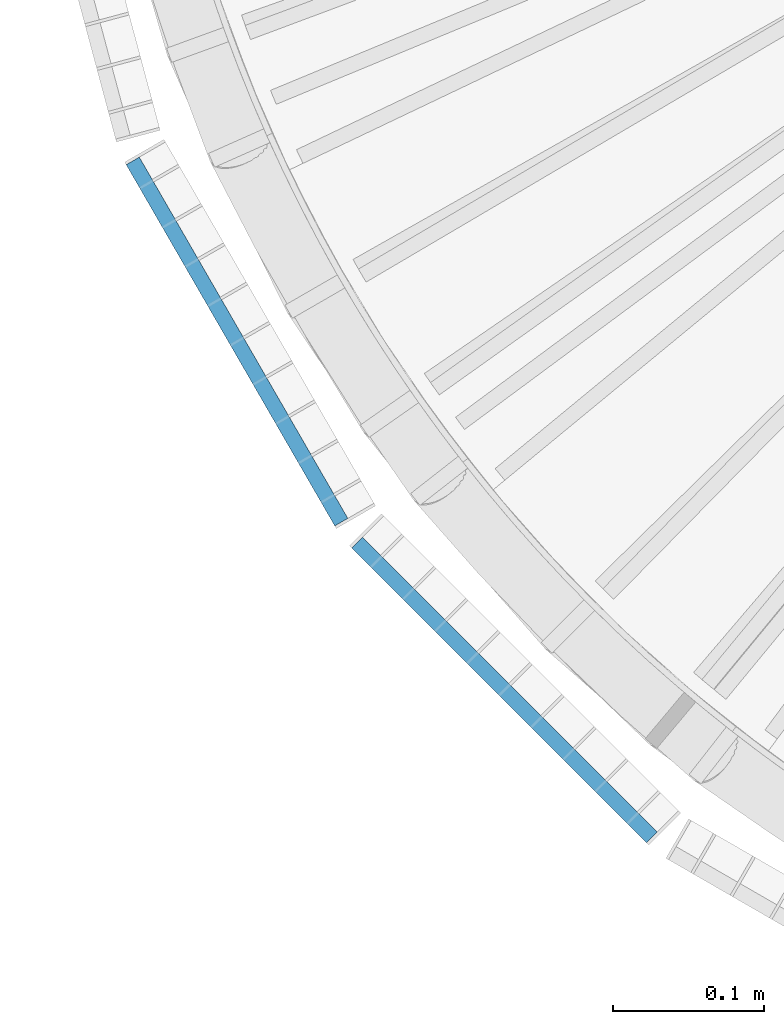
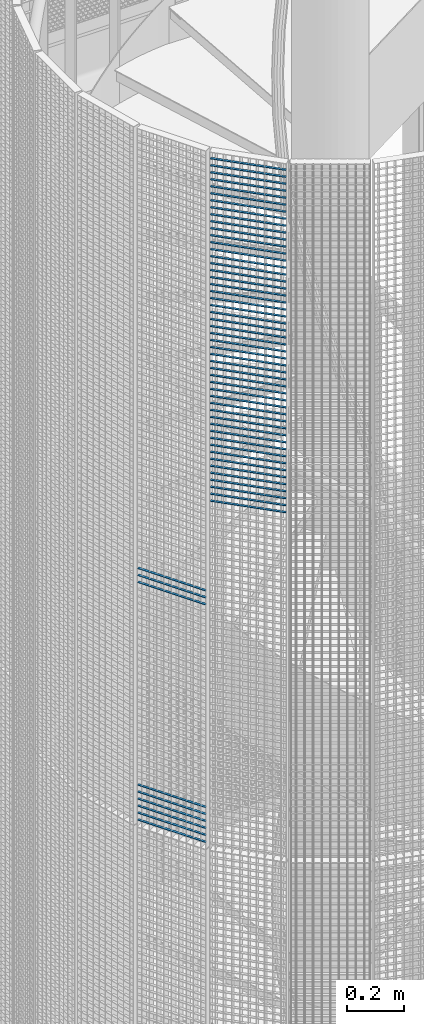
# One storey, part 340 of 1183: 59 beams, 2 elements without a shape of their own.
"""IFC2X3 building model written with IfcOpenShell, lengths in millimetres."""

from ifc_helpers import new_model, si_unit, frame, origin_with_axes, origin_2d_with_axis, place, context, subcontext, project, spatial, rectangle, extrude, material, type_object, element, aggregate, save


model = new_model("IFC2X3")

# Units and contexts
model_context = context("Model", 3, precision=1e-05, world=origin_with_axes())
body_context = subcontext(model_context, "Body", "Model", "MODEL_VIEW")
ifc_project = project(units=[si_unit("LENGTHUNIT", "METRE", prefix="MILLI"), si_unit("AREAUNIT", "SQUARE_METRE"), si_unit("VOLUMEUNIT", "CUBIC_METRE"), si_unit("MASSUNIT", "GRAM", prefix="KILO"), si_unit("TIMEUNIT", "SECOND"), si_unit("PLANEANGLEUNIT", "RADIAN"), si_unit("SOLIDANGLEUNIT", "STERADIAN"), si_unit("THERMODYNAMICTEMPERATUREUNIT", "DEGREE_CELSIUS"), si_unit("LUMINOUSINTENSITYUNIT", "LUMEN")], contexts=[model_context])

# Site, building, storey
site_placement = place(None, origin_with_axes())
site = spatial("IfcSite", under=ifc_project, at=site_placement, Name="Undefined", CompositionType="ELEMENT")
building_placement = place(site_placement, origin_with_axes())
building = spatial("IfcBuilding", under=site, at=building_placement, Name="Undefined", CompositionType="ELEMENT")
storey_placement = place(building_placement, origin_with_axes())
storey = spatial("IfcBuildingStorey", under=building, at=storey_placement, Name="Undefined", CompositionType="ELEMENT", Elevation=0.0)

# Assembly, beams
assembly_1_placement = place(storey_placement, origin_with_axes())
assembly_1 = element("IfcElementAssembly", 1, at=assembly_1_placement, inside=storey, Name="BORDURE", AssemblyPlace="NOTDEFINED", PredefinedType="NOTDEFINED")
ifc_material = material(Name="STEEL/S235JR")
beam_type = type_object("IfcBeamType", Name="PL2*10", PredefinedType="NOTDEFINED")
beam_1_placement = place(assembly_1_placement, frame((20704.6960350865, -676.24804453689, 15180.0), z_axis=(-0.866025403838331, -0.499999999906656, 0.0), x_axis=(-0.49999999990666, 0.866025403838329, 0.0)))
beam_1 = element("IfcBeam", 2, at=beam_1_placement, type_object=beam_type, material=ifc_material, Name="ENTRETOISE", context=body_context, shape_type="SweptSolid", body=[
    extrude(rectangle(XDim=2.0, YDim=10.0, at=origin_2d_with_axis()), frame((275.999999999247, 9.09494701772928e-13, 1.53210777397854e-14), z_axis=(-1.0, 0.0, 0.0), x_axis=(0.0, -1.0, 0.0)), (0.0, 0.0, 1.0), 276.0),
])
beam_2_placement = place(assembly_1_placement, frame((20704.6960350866, -676.248044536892, 16050.0), z_axis=(-0.866025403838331, -0.499999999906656, 0.0), x_axis=(-0.49999999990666, 0.866025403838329, 0.0)))
beam_2 = element("IfcBeam", 3, at=beam_2_placement, type_object=beam_type, material=ifc_material, Name="ENTRETOISE", context=body_context, shape_type="SweptSolid", body=[
    extrude(rectangle(XDim=2.0, YDim=10.0, at=origin_2d_with_axis()), frame((275.999999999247, 9.09494701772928e-13, 1.53210777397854e-14), z_axis=(-1.0, 0.0, 0.0), x_axis=(0.0, -1.0, 0.0)), (0.0, 0.0, 1.0), 276.0),
])
beam_3_placement = place(assembly_1_placement, frame((20704.6960350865, -676.24804453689, 15150.0), z_axis=(-0.866025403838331, -0.499999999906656, 0.0), x_axis=(-0.49999999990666, 0.866025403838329, 0.0)))
beam_3 = element("IfcBeam", 4, at=beam_3_placement, type_object=beam_type, material=ifc_material, Name="ENTRETOISE", context=body_context, shape_type="SweptSolid", body=[
    extrude(rectangle(XDim=2.0, YDim=10.0, at=origin_2d_with_axis()), frame((275.999999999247, 9.09494701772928e-13, 1.53210777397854e-14), z_axis=(-1.0, 0.0, 0.0), x_axis=(0.0, -1.0, 0.0)), (0.0, 0.0, 1.0), 276.0),
])
beam_4_placement = place(assembly_1_placement, frame((20704.6960350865, -676.24804453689, 15120.0), z_axis=(-0.866025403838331, -0.499999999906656, 0.0), x_axis=(-0.49999999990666, 0.866025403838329, 0.0)))
beam_4 = element("IfcBeam", 5, at=beam_4_placement, type_object=beam_type, material=ifc_material, Name="ENTRETOISE", context=body_context, shape_type="SweptSolid", body=[
    extrude(rectangle(XDim=2.0, YDim=10.0, at=origin_2d_with_axis()), frame((275.999999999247, 9.09494701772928e-13, 1.53210777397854e-14), z_axis=(-1.0, 0.0, 0.0), x_axis=(0.0, -1.0, 0.0)), (0.0, 0.0, 1.0), 276.0),
])
beam_5_placement = place(assembly_1_placement, frame((20704.6960350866, -676.248044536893, 16080.0), z_axis=(-0.866025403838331, -0.499999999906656, 0.0), x_axis=(-0.49999999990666, 0.866025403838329, 0.0)))
beam_5 = element("IfcBeam", 6, at=beam_5_placement, type_object=beam_type, material=ifc_material, Name="ENTRETOISE", context=body_context, shape_type="SweptSolid", body=[
    extrude(rectangle(XDim=2.0, YDim=10.0, at=origin_2d_with_axis()), frame((275.999999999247, 9.09494701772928e-13, 1.53210777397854e-14), z_axis=(-1.0, 0.0, 0.0), x_axis=(0.0, -1.0, 0.0)), (0.0, 0.0, 1.0), 276.0),
])
beam_6_placement = place(assembly_1_placement, frame((20704.6960350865, -676.248044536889, 15090.0), z_axis=(-0.866025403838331, -0.499999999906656, 0.0), x_axis=(-0.49999999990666, 0.866025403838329, 0.0)))
beam_6 = element("IfcBeam", 7, at=beam_6_placement, type_object=beam_type, material=ifc_material, Name="ENTRETOISE", context=body_context, shape_type="SweptSolid", body=[
    extrude(rectangle(XDim=2.0, YDim=10.0, at=origin_2d_with_axis()), frame((275.999999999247, 9.09494701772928e-13, 1.53210777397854e-14), z_axis=(-1.0, 0.0, 0.0), x_axis=(0.0, -1.0, 0.0)), (0.0, 0.0, 1.0), 276.0),
])
beam_7_placement = place(assembly_1_placement, frame((20704.6960350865, -676.248044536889, 15060.0), z_axis=(-0.866025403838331, -0.499999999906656, 0.0), x_axis=(-0.49999999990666, 0.866025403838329, 0.0)))
beam_7 = element("IfcBeam", 8, at=beam_7_placement, type_object=beam_type, material=ifc_material, Name="ENTRETOISE", context=body_context, shape_type="SweptSolid", body=[
    extrude(rectangle(XDim=2.0, YDim=10.0, at=origin_2d_with_axis()), frame((275.999999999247, 9.09494701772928e-13, 1.53210777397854e-14), z_axis=(-1.0, 0.0, 0.0), x_axis=(0.0, -1.0, 0.0)), (0.0, 0.0, 1.0), 276.0),
])
beam_8_placement = place(assembly_1_placement, frame((20704.6960350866, -676.248044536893, 16110.0), z_axis=(-0.866025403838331, -0.499999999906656, 0.0), x_axis=(-0.49999999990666, 0.866025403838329, 0.0)))
beam_8 = element("IfcBeam", 9, at=beam_8_placement, type_object=beam_type, material=ifc_material, Name="ENTRETOISE", context=body_context, shape_type="SweptSolid", body=[
    extrude(rectangle(XDim=2.0, YDim=10.0, at=origin_2d_with_axis()), frame((275.999999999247, 9.09494701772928e-13, 1.53210777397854e-14), z_axis=(-1.0, 0.0, 0.0), x_axis=(0.0, -1.0, 0.0)), (0.0, 0.0, 1.0), 276.0),
])
beam_9_placement = place(assembly_1_placement, frame((20704.6960350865, -676.248044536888, 15030.0), z_axis=(-0.866025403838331, -0.499999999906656, 0.0), x_axis=(-0.49999999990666, 0.866025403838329, 0.0)))
beam_9 = element("IfcBeam", 10, at=beam_9_placement, type_object=beam_type, material=ifc_material, Name="ENTRETOISE", context=body_context, shape_type="SweptSolid", body=[
    extrude(rectangle(XDim=2.0, YDim=10.0, at=origin_2d_with_axis()), frame((275.999999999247, 9.09494701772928e-13, 1.53210777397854e-14), z_axis=(-1.0, 0.0, 0.0), x_axis=(0.0, -1.0, 0.0)), (0.0, 0.0, 1.0), 276.0),
])
aggregate(assembly_1, [beam_1, beam_2, beam_3, beam_4, beam_5, beam_6, beam_7, beam_8, beam_9])

assembly_2_placement = place(storey_placement, origin_with_axes())
assembly_2 = element("IfcElementAssembly", 11, at=assembly_2_placement, inside=storey, Name="BORDURE", AssemblyPlace="NOTDEFINED", PredefinedType="NOTDEFINED")
beam_10_placement = place(assembly_2_placement, frame((20910.2286510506, -884.927168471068, 17970.0), z_axis=(-0.70710678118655, -0.707106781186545, 0.0), x_axis=(-0.707106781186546, 0.707106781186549, 0.0)))
beam_10 = element("IfcBeam", 12, at=beam_10_placement, type_object=beam_type, material=ifc_material, Name="ENTRETOISE", context=body_context, shape_type="SweptSolid", body=[
    extrude(rectangle(XDim=2.0, YDim=10.0, at=origin_2d_with_axis()), frame((275.999999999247, 9.09494701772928e-13, 1.53210777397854e-14), z_axis=(-1.0, 0.0, 0.0), x_axis=(0.0, -1.0, 0.0)), (0.0, 0.0, 1.0), 276.0),
])
beam_11_placement = place(assembly_2_placement, frame((20910.2286510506, -884.927168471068, 17940.0), z_axis=(-0.70710678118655, -0.707106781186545, 0.0), x_axis=(-0.707106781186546, 0.707106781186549, 0.0)))
beam_11 = element("IfcBeam", 13, at=beam_11_placement, type_object=beam_type, material=ifc_material, Name="ENTRETOISE", context=body_context, shape_type="SweptSolid", body=[
    extrude(rectangle(XDim=2.0, YDim=10.0, at=origin_2d_with_axis()), frame((275.999999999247, 9.09494701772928e-13, 1.53210777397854e-14), z_axis=(-1.0, 0.0, 0.0), x_axis=(0.0, -1.0, 0.0)), (0.0, 0.0, 1.0), 276.0),
])
beam_12_placement = place(assembly_2_placement, frame((20910.2286510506, -884.927168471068, 17910.0), z_axis=(-0.70710678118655, -0.707106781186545, 0.0), x_axis=(-0.707106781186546, 0.707106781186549, 0.0)))
beam_12 = element("IfcBeam", 14, at=beam_12_placement, type_object=beam_type, material=ifc_material, Name="ENTRETOISE", context=body_context, shape_type="SweptSolid", body=[
    extrude(rectangle(XDim=2.0, YDim=10.0, at=origin_2d_with_axis()), frame((275.999999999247, 9.09494701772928e-13, 1.53210777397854e-14), z_axis=(-1.0, 0.0, 0.0), x_axis=(0.0, -1.0, 0.0)), (0.0, 0.0, 1.0), 276.0),
])
beam_13_placement = place(assembly_2_placement, frame((20910.2286510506, -884.927168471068, 17880.0), z_axis=(-0.70710678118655, -0.707106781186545, 0.0), x_axis=(-0.707106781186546, 0.707106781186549, 0.0)))
beam_13 = element("IfcBeam", 15, at=beam_13_placement, type_object=beam_type, material=ifc_material, Name="ENTRETOISE", context=body_context, shape_type="SweptSolid", body=[
    extrude(rectangle(XDim=2.0, YDim=10.0, at=origin_2d_with_axis()), frame((275.999999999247, 9.09494701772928e-13, 1.53210777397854e-14), z_axis=(-1.0, 0.0, 0.0), x_axis=(0.0, -1.0, 0.0)), (0.0, 0.0, 1.0), 276.0),
])
beam_14_placement = place(assembly_2_placement, frame((20910.2286510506, -884.927168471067, 17850.0), z_axis=(-0.70710678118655, -0.707106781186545, 0.0), x_axis=(-0.707106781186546, 0.707106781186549, 0.0)))
beam_14 = element("IfcBeam", 16, at=beam_14_placement, type_object=beam_type, material=ifc_material, Name="ENTRETOISE", context=body_context, shape_type="SweptSolid", body=[
    extrude(rectangle(XDim=2.0, YDim=10.0, at=origin_2d_with_axis()), frame((275.999999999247, 9.09494701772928e-13, 1.53210777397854e-14), z_axis=(-1.0, 0.0, 0.0), x_axis=(0.0, -1.0, 0.0)), (0.0, 0.0, 1.0), 276.0),
])
beam_15_placement = place(assembly_2_placement, frame((20910.2286510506, -884.927168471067, 17820.0), z_axis=(-0.70710678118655, -0.707106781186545, 0.0), x_axis=(-0.707106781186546, 0.707106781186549, 0.0)))
beam_15 = element("IfcBeam", 17, at=beam_15_placement, type_object=beam_type, material=ifc_material, Name="ENTRETOISE", context=body_context, shape_type="SweptSolid", body=[
    extrude(rectangle(XDim=2.0, YDim=10.0, at=origin_2d_with_axis()), frame((275.999999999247, 9.09494701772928e-13, 1.53210777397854e-14), z_axis=(-1.0, 0.0, 0.0), x_axis=(0.0, -1.0, 0.0)), (0.0, 0.0, 1.0), 276.0),
])
beam_16_placement = place(assembly_2_placement, frame((20910.2286510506, -884.927168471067, 17790.0), z_axis=(-0.70710678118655, -0.707106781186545, 0.0), x_axis=(-0.707106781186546, 0.707106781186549, 0.0)))
beam_16 = element("IfcBeam", 18, at=beam_16_placement, type_object=beam_type, material=ifc_material, Name="ENTRETOISE", context=body_context, shape_type="SweptSolid", body=[
    extrude(rectangle(XDim=2.0, YDim=10.0, at=origin_2d_with_axis()), frame((275.999999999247, 9.09494701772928e-13, 1.53210777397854e-14), z_axis=(-1.0, 0.0, 0.0), x_axis=(0.0, -1.0, 0.0)), (0.0, 0.0, 1.0), 276.0),
])
beam_17_placement = place(assembly_2_placement, frame((20910.2286510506, -884.927168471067, 17760.0), z_axis=(-0.70710678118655, -0.707106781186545, 0.0), x_axis=(-0.707106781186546, 0.707106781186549, 0.0)))
beam_17 = element("IfcBeam", 19, at=beam_17_placement, type_object=beam_type, material=ifc_material, Name="ENTRETOISE", context=body_context, shape_type="SweptSolid", body=[
    extrude(rectangle(XDim=2.0, YDim=10.0, at=origin_2d_with_axis()), frame((275.999999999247, 9.09494701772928e-13, 1.53210777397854e-14), z_axis=(-1.0, 0.0, 0.0), x_axis=(0.0, -1.0, 0.0)), (0.0, 0.0, 1.0), 276.0),
])
beam_18_placement = place(assembly_2_placement, frame((20910.2286510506, -884.927168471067, 17730.0), z_axis=(-0.70710678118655, -0.707106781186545, 0.0), x_axis=(-0.707106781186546, 0.707106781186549, 0.0)))
beam_18 = element("IfcBeam", 20, at=beam_18_placement, type_object=beam_type, material=ifc_material, Name="ENTRETOISE", context=body_context, shape_type="SweptSolid", body=[
    extrude(rectangle(XDim=2.0, YDim=10.0, at=origin_2d_with_axis()), frame((275.999999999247, 9.09494701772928e-13, 1.53210777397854e-14), z_axis=(-1.0, 0.0, 0.0), x_axis=(0.0, -1.0, 0.0)), (0.0, 0.0, 1.0), 276.0),
])
beam_19_placement = place(assembly_2_placement, frame((20910.2286510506, -884.927168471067, 17700.0), z_axis=(-0.70710678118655, -0.707106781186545, 0.0), x_axis=(-0.707106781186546, 0.707106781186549, 0.0)))
beam_19 = element("IfcBeam", 21, at=beam_19_placement, type_object=beam_type, material=ifc_material, Name="ENTRETOISE", context=body_context, shape_type="SweptSolid", body=[
    extrude(rectangle(XDim=2.0, YDim=10.0, at=origin_2d_with_axis()), frame((275.999999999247, 9.09494701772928e-13, 1.53210777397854e-14), z_axis=(-1.0, 0.0, 0.0), x_axis=(0.0, -1.0, 0.0)), (0.0, 0.0, 1.0), 276.0),
])
beam_20_placement = place(assembly_2_placement, frame((20910.2286510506, -884.927168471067, 17670.0), z_axis=(-0.70710678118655, -0.707106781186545, 0.0), x_axis=(-0.707106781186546, 0.707106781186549, 0.0)))
beam_20 = element("IfcBeam", 22, at=beam_20_placement, type_object=beam_type, material=ifc_material, Name="ENTRETOISE", context=body_context, shape_type="SweptSolid", body=[
    extrude(rectangle(XDim=2.0, YDim=10.0, at=origin_2d_with_axis()), frame((275.999999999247, 9.09494701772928e-13, 1.53210777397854e-14), z_axis=(-1.0, 0.0, 0.0), x_axis=(0.0, -1.0, 0.0)), (0.0, 0.0, 1.0), 276.0),
])
beam_21_placement = place(assembly_2_placement, frame((20910.2286510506, -884.927168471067, 17640.0), z_axis=(-0.70710678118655, -0.707106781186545, 0.0), x_axis=(-0.707106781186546, 0.707106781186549, 0.0)))
beam_21 = element("IfcBeam", 23, at=beam_21_placement, type_object=beam_type, material=ifc_material, Name="ENTRETOISE", context=body_context, shape_type="SweptSolid", body=[
    extrude(rectangle(XDim=2.0, YDim=10.0, at=origin_2d_with_axis()), frame((275.999999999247, 9.09494701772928e-13, 1.53210777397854e-14), z_axis=(-1.0, 0.0, 0.0), x_axis=(0.0, -1.0, 0.0)), (0.0, 0.0, 1.0), 276.0),
])
beam_22_placement = place(assembly_2_placement, frame((20910.2286510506, -884.927168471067, 17610.0), z_axis=(-0.70710678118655, -0.707106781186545, 0.0), x_axis=(-0.707106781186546, 0.707106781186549, 0.0)))
beam_22 = element("IfcBeam", 24, at=beam_22_placement, type_object=beam_type, material=ifc_material, Name="ENTRETOISE", context=body_context, shape_type="SweptSolid", body=[
    extrude(rectangle(XDim=2.0, YDim=10.0, at=origin_2d_with_axis()), frame((275.999999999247, 9.09494701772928e-13, 1.53210777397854e-14), z_axis=(-1.0, 0.0, 0.0), x_axis=(0.0, -1.0, 0.0)), (0.0, 0.0, 1.0), 276.0),
])
beam_23_placement = place(assembly_2_placement, frame((20910.2286510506, -884.927168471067, 17580.0), z_axis=(-0.70710678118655, -0.707106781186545, 0.0), x_axis=(-0.707106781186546, 0.707106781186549, 0.0)))
beam_23 = element("IfcBeam", 25, at=beam_23_placement, type_object=beam_type, material=ifc_material, Name="ENTRETOISE", context=body_context, shape_type="SweptSolid", body=[
    extrude(rectangle(XDim=2.0, YDim=10.0, at=origin_2d_with_axis()), frame((275.999999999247, 9.09494701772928e-13, 1.53210777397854e-14), z_axis=(-1.0, 0.0, 0.0), x_axis=(0.0, -1.0, 0.0)), (0.0, 0.0, 1.0), 276.0),
])
beam_24_placement = place(assembly_2_placement, frame((20910.2286510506, -884.927168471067, 17550.0), z_axis=(-0.70710678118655, -0.707106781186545, 0.0), x_axis=(-0.707106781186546, 0.707106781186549, 0.0)))
beam_24 = element("IfcBeam", 26, at=beam_24_placement, type_object=beam_type, material=ifc_material, Name="ENTRETOISE", context=body_context, shape_type="SweptSolid", body=[
    extrude(rectangle(XDim=2.0, YDim=10.0, at=origin_2d_with_axis()), frame((275.999999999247, 9.09494701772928e-13, 1.53210777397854e-14), z_axis=(-1.0, 0.0, 0.0), x_axis=(0.0, -1.0, 0.0)), (0.0, 0.0, 1.0), 276.0),
])
beam_25_placement = place(assembly_2_placement, frame((20910.2286510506, -884.927168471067, 17520.0), z_axis=(-0.70710678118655, -0.707106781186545, 0.0), x_axis=(-0.707106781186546, 0.707106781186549, 0.0)))
beam_25 = element("IfcBeam", 27, at=beam_25_placement, type_object=beam_type, material=ifc_material, Name="ENTRETOISE", context=body_context, shape_type="SweptSolid", body=[
    extrude(rectangle(XDim=2.0, YDim=10.0, at=origin_2d_with_axis()), frame((275.999999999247, 9.09494701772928e-13, 1.53210777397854e-14), z_axis=(-1.0, 0.0, 0.0), x_axis=(0.0, -1.0, 0.0)), (0.0, 0.0, 1.0), 276.0),
])
beam_26_placement = place(assembly_2_placement, frame((20910.2286510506, -884.927168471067, 17490.0), z_axis=(-0.70710678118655, -0.707106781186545, 0.0), x_axis=(-0.707106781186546, 0.707106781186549, 0.0)))
beam_26 = element("IfcBeam", 28, at=beam_26_placement, type_object=beam_type, material=ifc_material, Name="ENTRETOISE", context=body_context, shape_type="SweptSolid", body=[
    extrude(rectangle(XDim=2.0, YDim=10.0, at=origin_2d_with_axis()), frame((275.999999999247, 9.09494701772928e-13, 1.53210777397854e-14), z_axis=(-1.0, 0.0, 0.0), x_axis=(0.0, -1.0, 0.0)), (0.0, 0.0, 1.0), 276.0),
])
beam_27_placement = place(assembly_2_placement, frame((20910.2286510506, -884.927168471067, 17460.0), z_axis=(-0.70710678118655, -0.707106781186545, 0.0), x_axis=(-0.707106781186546, 0.707106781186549, 0.0)))
beam_27 = element("IfcBeam", 29, at=beam_27_placement, type_object=beam_type, material=ifc_material, Name="ENTRETOISE", context=body_context, shape_type="SweptSolid", body=[
    extrude(rectangle(XDim=2.0, YDim=10.0, at=origin_2d_with_axis()), frame((275.999999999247, 9.09494701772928e-13, 1.53210777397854e-14), z_axis=(-1.0, 0.0, 0.0), x_axis=(0.0, -1.0, 0.0)), (0.0, 0.0, 1.0), 276.0),
])
beam_28_placement = place(assembly_2_placement, frame((20910.2286510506, -884.927168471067, 17430.0), z_axis=(-0.70710678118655, -0.707106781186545, 0.0), x_axis=(-0.707106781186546, 0.707106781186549, 0.0)))
beam_28 = element("IfcBeam", 30, at=beam_28_placement, type_object=beam_type, material=ifc_material, Name="ENTRETOISE", context=body_context, shape_type="SweptSolid", body=[
    extrude(rectangle(XDim=2.0, YDim=10.0, at=origin_2d_with_axis()), frame((275.999999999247, 9.09494701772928e-13, 1.53210777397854e-14), z_axis=(-1.0, 0.0, 0.0), x_axis=(0.0, -1.0, 0.0)), (0.0, 0.0, 1.0), 276.0),
])
beam_29_placement = place(assembly_2_placement, frame((20910.2286510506, -884.927168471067, 17400.0), z_axis=(-0.70710678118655, -0.707106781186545, 0.0), x_axis=(-0.707106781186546, 0.707106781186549, 0.0)))
beam_29 = element("IfcBeam", 31, at=beam_29_placement, type_object=beam_type, material=ifc_material, Name="ENTRETOISE", context=body_context, shape_type="SweptSolid", body=[
    extrude(rectangle(XDim=2.0, YDim=10.0, at=origin_2d_with_axis()), frame((275.999999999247, 9.09494701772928e-13, 1.53210777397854e-14), z_axis=(-1.0, 0.0, 0.0), x_axis=(0.0, -1.0, 0.0)), (0.0, 0.0, 1.0), 276.0),
])
beam_30_placement = place(assembly_2_placement, frame((20910.2286510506, -884.927168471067, 17370.0), z_axis=(-0.70710678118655, -0.707106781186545, 0.0), x_axis=(-0.707106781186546, 0.707106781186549, 0.0)))
beam_30 = element("IfcBeam", 32, at=beam_30_placement, type_object=beam_type, material=ifc_material, Name="ENTRETOISE", context=body_context, shape_type="SweptSolid", body=[
    extrude(rectangle(XDim=2.0, YDim=10.0, at=origin_2d_with_axis()), frame((275.999999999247, 9.09494701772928e-13, 1.53210777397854e-14), z_axis=(-1.0, 0.0, 0.0), x_axis=(0.0, -1.0, 0.0)), (0.0, 0.0, 1.0), 276.0),
])
beam_31_placement = place(assembly_2_placement, frame((20910.2286510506, -884.927168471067, 17340.0), z_axis=(-0.70710678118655, -0.707106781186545, 0.0), x_axis=(-0.707106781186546, 0.707106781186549, 0.0)))
beam_31 = element("IfcBeam", 33, at=beam_31_placement, type_object=beam_type, material=ifc_material, Name="ENTRETOISE", context=body_context, shape_type="SweptSolid", body=[
    extrude(rectangle(XDim=2.0, YDim=10.0, at=origin_2d_with_axis()), frame((275.999999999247, 9.09494701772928e-13, 1.53210777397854e-14), z_axis=(-1.0, 0.0, 0.0), x_axis=(0.0, -1.0, 0.0)), (0.0, 0.0, 1.0), 276.0),
])
beam_32_placement = place(assembly_2_placement, frame((20910.2286510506, -884.927168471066, 17310.0), z_axis=(-0.70710678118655, -0.707106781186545, 0.0), x_axis=(-0.707106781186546, 0.707106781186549, 0.0)))
beam_32 = element("IfcBeam", 34, at=beam_32_placement, type_object=beam_type, material=ifc_material, Name="ENTRETOISE", context=body_context, shape_type="SweptSolid", body=[
    extrude(rectangle(XDim=2.0, YDim=10.0, at=origin_2d_with_axis()), frame((275.999999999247, 9.09494701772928e-13, 1.53210777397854e-14), z_axis=(-1.0, 0.0, 0.0), x_axis=(0.0, -1.0, 0.0)), (0.0, 0.0, 1.0), 276.0),
])
beam_33_placement = place(assembly_2_placement, frame((20910.2286510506, -884.927168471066, 17280.0), z_axis=(-0.70710678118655, -0.707106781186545, 0.0), x_axis=(-0.707106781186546, 0.707106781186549, 0.0)))
beam_33 = element("IfcBeam", 35, at=beam_33_placement, type_object=beam_type, material=ifc_material, Name="ENTRETOISE", context=body_context, shape_type="SweptSolid", body=[
    extrude(rectangle(XDim=2.0, YDim=10.0, at=origin_2d_with_axis()), frame((275.999999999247, 9.09494701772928e-13, 1.53210777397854e-14), z_axis=(-1.0, 0.0, 0.0), x_axis=(0.0, -1.0, 0.0)), (0.0, 0.0, 1.0), 276.0),
])
beam_34_placement = place(assembly_2_placement, frame((20910.2286510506, -884.927168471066, 17250.0), z_axis=(-0.70710678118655, -0.707106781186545, 0.0), x_axis=(-0.707106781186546, 0.707106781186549, 0.0)))
beam_34 = element("IfcBeam", 36, at=beam_34_placement, type_object=beam_type, material=ifc_material, Name="ENTRETOISE", context=body_context, shape_type="SweptSolid", body=[
    extrude(rectangle(XDim=2.0, YDim=10.0, at=origin_2d_with_axis()), frame((275.999999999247, 9.09494701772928e-13, 1.53210777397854e-14), z_axis=(-1.0, 0.0, 0.0), x_axis=(0.0, -1.0, 0.0)), (0.0, 0.0, 1.0), 276.0),
])
beam_35_placement = place(assembly_2_placement, frame((20910.2286510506, -884.927168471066, 17220.0), z_axis=(-0.70710678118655, -0.707106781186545, 0.0), x_axis=(-0.707106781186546, 0.707106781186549, 0.0)))
beam_35 = element("IfcBeam", 37, at=beam_35_placement, type_object=beam_type, material=ifc_material, Name="ENTRETOISE", context=body_context, shape_type="SweptSolid", body=[
    extrude(rectangle(XDim=2.0, YDim=10.0, at=origin_2d_with_axis()), frame((275.999999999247, 9.09494701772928e-13, 1.53210777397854e-14), z_axis=(-1.0, 0.0, 0.0), x_axis=(0.0, -1.0, 0.0)), (0.0, 0.0, 1.0), 276.0),
])
beam_36_placement = place(assembly_2_placement, frame((20910.2286510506, -884.927168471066, 17190.0), z_axis=(-0.70710678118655, -0.707106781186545, 0.0), x_axis=(-0.707106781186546, 0.707106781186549, 0.0)))
beam_36 = element("IfcBeam", 38, at=beam_36_placement, type_object=beam_type, material=ifc_material, Name="ENTRETOISE", context=body_context, shape_type="SweptSolid", body=[
    extrude(rectangle(XDim=2.0, YDim=10.0, at=origin_2d_with_axis()), frame((275.999999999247, 9.09494701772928e-13, 1.53210777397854e-14), z_axis=(-1.0, 0.0, 0.0), x_axis=(0.0, -1.0, 0.0)), (0.0, 0.0, 1.0), 276.0),
])
beam_37_placement = place(assembly_2_placement, frame((20910.2286510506, -884.927168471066, 17160.0), z_axis=(-0.70710678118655, -0.707106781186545, 0.0), x_axis=(-0.707106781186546, 0.707106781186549, 0.0)))
beam_37 = element("IfcBeam", 39, at=beam_37_placement, type_object=beam_type, material=ifc_material, Name="ENTRETOISE", context=body_context, shape_type="SweptSolid", body=[
    extrude(rectangle(XDim=2.0, YDim=10.0, at=origin_2d_with_axis()), frame((275.999999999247, 9.09494701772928e-13, 1.53210777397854e-14), z_axis=(-1.0, 0.0, 0.0), x_axis=(0.0, -1.0, 0.0)), (0.0, 0.0, 1.0), 276.0),
])
beam_38_placement = place(assembly_2_placement, frame((20910.2286510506, -884.927168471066, 17130.0), z_axis=(-0.70710678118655, -0.707106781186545, 0.0), x_axis=(-0.707106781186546, 0.707106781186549, 0.0)))
beam_38 = element("IfcBeam", 40, at=beam_38_placement, type_object=beam_type, material=ifc_material, Name="ENTRETOISE", context=body_context, shape_type="SweptSolid", body=[
    extrude(rectangle(XDim=2.0, YDim=10.0, at=origin_2d_with_axis()), frame((275.999999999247, 9.09494701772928e-13, 1.53210777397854e-14), z_axis=(-1.0, 0.0, 0.0), x_axis=(0.0, -1.0, 0.0)), (0.0, 0.0, 1.0), 276.0),
])
beam_39_placement = place(assembly_2_placement, frame((20910.2286510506, -884.927168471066, 17100.0), z_axis=(-0.70710678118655, -0.707106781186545, 0.0), x_axis=(-0.707106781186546, 0.707106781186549, 0.0)))
beam_39 = element("IfcBeam", 41, at=beam_39_placement, type_object=beam_type, material=ifc_material, Name="ENTRETOISE", context=body_context, shape_type="SweptSolid", body=[
    extrude(rectangle(XDim=2.0, YDim=10.0, at=origin_2d_with_axis()), frame((275.999999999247, 9.09494701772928e-13, 1.53210777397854e-14), z_axis=(-1.0, 0.0, 0.0), x_axis=(0.0, -1.0, 0.0)), (0.0, 0.0, 1.0), 276.0),
])
beam_40_placement = place(assembly_2_placement, frame((20910.2286510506, -884.927168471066, 17070.0), z_axis=(-0.70710678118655, -0.707106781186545, 0.0), x_axis=(-0.707106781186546, 0.707106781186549, 0.0)))
beam_40 = element("IfcBeam", 42, at=beam_40_placement, type_object=beam_type, material=ifc_material, Name="ENTRETOISE", context=body_context, shape_type="SweptSolid", body=[
    extrude(rectangle(XDim=2.0, YDim=10.0, at=origin_2d_with_axis()), frame((275.999999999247, 9.09494701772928e-13, 1.53210777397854e-14), z_axis=(-1.0, 0.0, 0.0), x_axis=(0.0, -1.0, 0.0)), (0.0, 0.0, 1.0), 276.0),
])
beam_41_placement = place(assembly_2_placement, frame((20910.2286510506, -884.927168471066, 17040.0), z_axis=(-0.70710678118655, -0.707106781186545, 0.0), x_axis=(-0.707106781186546, 0.707106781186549, 0.0)))
beam_41 = element("IfcBeam", 43, at=beam_41_placement, type_object=beam_type, material=ifc_material, Name="ENTRETOISE", context=body_context, shape_type="SweptSolid", body=[
    extrude(rectangle(XDim=2.0, YDim=10.0, at=origin_2d_with_axis()), frame((275.999999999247, 9.09494701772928e-13, 1.53210777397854e-14), z_axis=(-1.0, 0.0, 0.0), x_axis=(0.0, -1.0, 0.0)), (0.0, 0.0, 1.0), 276.0),
])
beam_42_placement = place(assembly_2_placement, frame((20910.2286510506, -884.927168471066, 17010.0), z_axis=(-0.70710678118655, -0.707106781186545, 0.0), x_axis=(-0.707106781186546, 0.707106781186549, 0.0)))
beam_42 = element("IfcBeam", 44, at=beam_42_placement, type_object=beam_type, material=ifc_material, Name="ENTRETOISE", context=body_context, shape_type="SweptSolid", body=[
    extrude(rectangle(XDim=2.0, YDim=10.0, at=origin_2d_with_axis()), frame((275.999999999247, 9.09494701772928e-13, 1.53210777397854e-14), z_axis=(-1.0, 0.0, 0.0), x_axis=(0.0, -1.0, 0.0)), (0.0, 0.0, 1.0), 276.0),
])
beam_43_placement = place(assembly_2_placement, frame((20910.2286510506, -884.927168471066, 16980.0), z_axis=(-0.70710678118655, -0.707106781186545, 0.0), x_axis=(-0.707106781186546, 0.707106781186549, 0.0)))
beam_43 = element("IfcBeam", 45, at=beam_43_placement, type_object=beam_type, material=ifc_material, Name="ENTRETOISE", context=body_context, shape_type="SweptSolid", body=[
    extrude(rectangle(XDim=2.0, YDim=10.0, at=origin_2d_with_axis()), frame((275.999999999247, 9.09494701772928e-13, 1.53210777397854e-14), z_axis=(-1.0, 0.0, 0.0), x_axis=(0.0, -1.0, 0.0)), (0.0, 0.0, 1.0), 276.0),
])
beam_44_placement = place(assembly_2_placement, frame((20910.2286510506, -884.927168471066, 16950.0), z_axis=(-0.70710678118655, -0.707106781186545, 0.0), x_axis=(-0.707106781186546, 0.707106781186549, 0.0)))
beam_44 = element("IfcBeam", 46, at=beam_44_placement, type_object=beam_type, material=ifc_material, Name="ENTRETOISE", context=body_context, shape_type="SweptSolid", body=[
    extrude(rectangle(XDim=2.0, YDim=10.0, at=origin_2d_with_axis()), frame((275.999999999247, 9.09494701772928e-13, 1.53210777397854e-14), z_axis=(-1.0, 0.0, 0.0), x_axis=(0.0, -1.0, 0.0)), (0.0, 0.0, 1.0), 276.0),
])
beam_45_placement = place(assembly_2_placement, frame((20910.2286510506, -884.927168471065, 16920.0), z_axis=(-0.70710678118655, -0.707106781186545, 0.0), x_axis=(-0.707106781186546, 0.707106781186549, 0.0)))
beam_45 = element("IfcBeam", 47, at=beam_45_placement, type_object=beam_type, material=ifc_material, Name="ENTRETOISE", context=body_context, shape_type="SweptSolid", body=[
    extrude(rectangle(XDim=2.0, YDim=10.0, at=origin_2d_with_axis()), frame((275.999999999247, 9.09494701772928e-13, 1.53210777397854e-14), z_axis=(-1.0, 0.0, 0.0), x_axis=(0.0, -1.0, 0.0)), (0.0, 0.0, 1.0), 276.0),
])
beam_46_placement = place(assembly_2_placement, frame((20910.2286510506, -884.927168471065, 16890.0), z_axis=(-0.70710678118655, -0.707106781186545, 0.0), x_axis=(-0.707106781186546, 0.707106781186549, 0.0)))
beam_46 = element("IfcBeam", 48, at=beam_46_placement, type_object=beam_type, material=ifc_material, Name="ENTRETOISE", context=body_context, shape_type="SweptSolid", body=[
    extrude(rectangle(XDim=2.0, YDim=10.0, at=origin_2d_with_axis()), frame((275.999999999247, 9.09494701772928e-13, 1.53210777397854e-14), z_axis=(-1.0, 0.0, 0.0), x_axis=(0.0, -1.0, 0.0)), (0.0, 0.0, 1.0), 276.0),
])
beam_47_placement = place(assembly_2_placement, frame((20910.2286510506, -884.927168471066, 16860.0), z_axis=(-0.70710678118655, -0.707106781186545, 0.0), x_axis=(-0.707106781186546, 0.707106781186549, 0.0)))
beam_47 = element("IfcBeam", 49, at=beam_47_placement, type_object=beam_type, material=ifc_material, Name="ENTRETOISE", context=body_context, shape_type="SweptSolid", body=[
    extrude(rectangle(XDim=2.0, YDim=10.0, at=origin_2d_with_axis()), frame((275.999999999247, 9.09494701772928e-13, 1.53210777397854e-14), z_axis=(-1.0, 0.0, 0.0), x_axis=(0.0, -1.0, 0.0)), (0.0, 0.0, 1.0), 276.0),
])
beam_48_placement = place(assembly_2_placement, frame((20910.2286510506, -884.927168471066, 16830.0), z_axis=(-0.70710678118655, -0.707106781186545, 0.0), x_axis=(-0.707106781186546, 0.707106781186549, 0.0)))
beam_48 = element("IfcBeam", 50, at=beam_48_placement, type_object=beam_type, material=ifc_material, Name="ENTRETOISE", context=body_context, shape_type="SweptSolid", body=[
    extrude(rectangle(XDim=2.0, YDim=10.0, at=origin_2d_with_axis()), frame((275.999999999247, 9.09494701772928e-13, 1.53210777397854e-14), z_axis=(-1.0, 0.0, 0.0), x_axis=(0.0, -1.0, 0.0)), (0.0, 0.0, 1.0), 276.0),
])
beam_49_placement = place(assembly_2_placement, frame((20910.2286510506, -884.927168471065, 16800.0), z_axis=(-0.70710678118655, -0.707106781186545, 0.0), x_axis=(-0.707106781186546, 0.707106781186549, 0.0)))
beam_49 = element("IfcBeam", 51, at=beam_49_placement, type_object=beam_type, material=ifc_material, Name="ENTRETOISE", context=body_context, shape_type="SweptSolid", body=[
    extrude(rectangle(XDim=2.0, YDim=10.0, at=origin_2d_with_axis()), frame((275.999999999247, 9.09494701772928e-13, 1.53210777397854e-14), z_axis=(-1.0, 0.0, 0.0), x_axis=(0.0, -1.0, 0.0)), (0.0, 0.0, 1.0), 276.0),
])
beam_50_placement = place(assembly_2_placement, frame((20910.2286510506, -884.927168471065, 16770.0), z_axis=(-0.70710678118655, -0.707106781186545, 0.0), x_axis=(-0.707106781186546, 0.707106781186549, 0.0)))
beam_50 = element("IfcBeam", 52, at=beam_50_placement, type_object=beam_type, material=ifc_material, Name="ENTRETOISE", context=body_context, shape_type="SweptSolid", body=[
    extrude(rectangle(XDim=2.0, YDim=10.0, at=origin_2d_with_axis()), frame((275.999999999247, 9.09494701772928e-13, 1.53210777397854e-14), z_axis=(-1.0, 0.0, 0.0), x_axis=(0.0, -1.0, 0.0)), (0.0, 0.0, 1.0), 276.0),
])
beam_51_placement = place(assembly_2_placement, frame((20910.2286510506, -884.927168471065, 16740.0), z_axis=(-0.70710678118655, -0.707106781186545, 0.0), x_axis=(-0.707106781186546, 0.707106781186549, 0.0)))
beam_51 = element("IfcBeam", 53, at=beam_51_placement, type_object=beam_type, material=ifc_material, Name="ENTRETOISE", context=body_context, shape_type="SweptSolid", body=[
    extrude(rectangle(XDim=2.0, YDim=10.0, at=origin_2d_with_axis()), frame((275.999999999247, 9.09494701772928e-13, 1.53210777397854e-14), z_axis=(-1.0, 0.0, 0.0), x_axis=(0.0, -1.0, 0.0)), (0.0, 0.0, 1.0), 276.0),
])
beam_52_placement = place(assembly_2_placement, frame((20910.2286510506, -884.927168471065, 16710.0), z_axis=(-0.70710678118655, -0.707106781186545, 0.0), x_axis=(-0.707106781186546, 0.707106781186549, 0.0)))
beam_52 = element("IfcBeam", 54, at=beam_52_placement, type_object=beam_type, material=ifc_material, Name="ENTRETOISE", context=body_context, shape_type="SweptSolid", body=[
    extrude(rectangle(XDim=2.0, YDim=10.0, at=origin_2d_with_axis()), frame((275.999999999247, 9.09494701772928e-13, 1.53210777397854e-14), z_axis=(-1.0, 0.0, 0.0), x_axis=(0.0, -1.0, 0.0)), (0.0, 0.0, 1.0), 276.0),
])
beam_53_placement = place(assembly_2_placement, frame((20910.2286510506, -884.927168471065, 16680.0), z_axis=(-0.70710678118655, -0.707106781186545, 0.0), x_axis=(-0.707106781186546, 0.707106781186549, 0.0)))
beam_53 = element("IfcBeam", 55, at=beam_53_placement, type_object=beam_type, material=ifc_material, Name="ENTRETOISE", context=body_context, shape_type="SweptSolid", body=[
    extrude(rectangle(XDim=2.0, YDim=10.0, at=origin_2d_with_axis()), frame((275.999999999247, 9.09494701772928e-13, 1.53210777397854e-14), z_axis=(-1.0, 0.0, 0.0), x_axis=(0.0, -1.0, 0.0)), (0.0, 0.0, 1.0), 276.0),
])
beam_54_placement = place(assembly_2_placement, frame((20910.2286510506, -884.927168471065, 16650.0), z_axis=(-0.70710678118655, -0.707106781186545, 0.0), x_axis=(-0.707106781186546, 0.707106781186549, 0.0)))
beam_54 = element("IfcBeam", 56, at=beam_54_placement, type_object=beam_type, material=ifc_material, Name="ENTRETOISE", context=body_context, shape_type="SweptSolid", body=[
    extrude(rectangle(XDim=2.0, YDim=10.0, at=origin_2d_with_axis()), frame((275.999999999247, 9.09494701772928e-13, 1.53210777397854e-14), z_axis=(-1.0, 0.0, 0.0), x_axis=(0.0, -1.0, 0.0)), (0.0, 0.0, 1.0), 276.0),
])
beam_55_placement = place(assembly_2_placement, frame((20910.2286510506, -884.927168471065, 16620.0), z_axis=(-0.70710678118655, -0.707106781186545, 0.0), x_axis=(-0.707106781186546, 0.707106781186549, 0.0)))
beam_55 = element("IfcBeam", 57, at=beam_55_placement, type_object=beam_type, material=ifc_material, Name="ENTRETOISE", context=body_context, shape_type="SweptSolid", body=[
    extrude(rectangle(XDim=2.0, YDim=10.0, at=origin_2d_with_axis()), frame((275.999999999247, 9.09494701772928e-13, 1.53210777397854e-14), z_axis=(-1.0, 0.0, 0.0), x_axis=(0.0, -1.0, 0.0)), (0.0, 0.0, 1.0), 276.0),
])
beam_56_placement = place(assembly_2_placement, frame((20910.2286510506, -884.927168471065, 16590.0), z_axis=(-0.70710678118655, -0.707106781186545, 0.0), x_axis=(-0.707106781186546, 0.707106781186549, 0.0)))
beam_56 = element("IfcBeam", 58, at=beam_56_placement, type_object=beam_type, material=ifc_material, Name="ENTRETOISE", context=body_context, shape_type="SweptSolid", body=[
    extrude(rectangle(XDim=2.0, YDim=10.0, at=origin_2d_with_axis()), frame((275.999999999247, 9.09494701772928e-13, 1.53210777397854e-14), z_axis=(-1.0, 0.0, 0.0), x_axis=(0.0, -1.0, 0.0)), (0.0, 0.0, 1.0), 276.0),
])
beam_57_placement = place(assembly_2_placement, frame((20910.2286510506, -884.927168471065, 16560.0), z_axis=(-0.70710678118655, -0.707106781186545, 0.0), x_axis=(-0.707106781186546, 0.707106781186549, 0.0)))
beam_57 = element("IfcBeam", 59, at=beam_57_placement, type_object=beam_type, material=ifc_material, Name="ENTRETOISE", context=body_context, shape_type="SweptSolid", body=[
    extrude(rectangle(XDim=2.0, YDim=10.0, at=origin_2d_with_axis()), frame((275.999999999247, 9.09494701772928e-13, 1.53210777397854e-14), z_axis=(-1.0, 0.0, 0.0), x_axis=(0.0, -1.0, 0.0)), (0.0, 0.0, 1.0), 276.0),
])
beam_58_placement = place(assembly_2_placement, frame((20910.2286510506, -884.927168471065, 16530.0), z_axis=(-0.70710678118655, -0.707106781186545, 0.0), x_axis=(-0.707106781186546, 0.707106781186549, 0.0)))
beam_58 = element("IfcBeam", 60, at=beam_58_placement, type_object=beam_type, material=ifc_material, Name="ENTRETOISE", context=body_context, shape_type="SweptSolid", body=[
    extrude(rectangle(XDim=2.0, YDim=10.0, at=origin_2d_with_axis()), frame((275.999999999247, 9.09494701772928e-13, 1.53210777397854e-14), z_axis=(-1.0, 0.0, 0.0), x_axis=(0.0, -1.0, 0.0)), (0.0, 0.0, 1.0), 276.0),
])
beam_59_placement = place(assembly_2_placement, frame((20910.2286510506, -884.927168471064, 16500.0), z_axis=(-0.70710678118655, -0.707106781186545, 0.0), x_axis=(-0.707106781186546, 0.707106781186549, 0.0)))
beam_59 = element("IfcBeam", 61, at=beam_59_placement, type_object=beam_type, material=ifc_material, Name="ENTRETOISE", context=body_context, shape_type="SweptSolid", body=[
    extrude(rectangle(XDim=2.0, YDim=10.0, at=origin_2d_with_axis()), frame((275.999999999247, 9.09494701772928e-13, 1.53210777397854e-14), z_axis=(-1.0, 0.0, 0.0), x_axis=(0.0, -1.0, 0.0)), (0.0, 0.0, 1.0), 276.0),
])
aggregate(assembly_2, [beam_10, beam_11, beam_12, beam_13, beam_14, beam_15, beam_16, beam_17, beam_18, beam_19, beam_20, beam_21, beam_22, beam_23, beam_24, beam_25, beam_26, beam_27, beam_28, beam_29, beam_30, beam_31, beam_32, beam_33, beam_34, beam_35, beam_36, beam_37, beam_38, beam_39, beam_40, beam_41, beam_42, beam_43, beam_44, beam_45, beam_46, beam_47, beam_48, beam_49, beam_50, beam_51, beam_52, beam_53, beam_54, beam_55, beam_56, beam_57, beam_58, beam_59])

save(model, "model.ifc")
